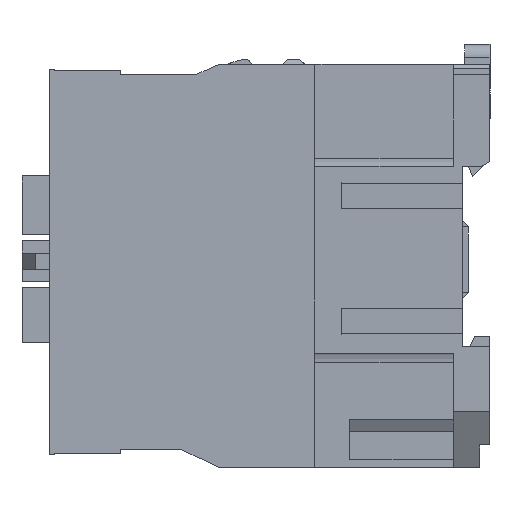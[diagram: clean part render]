
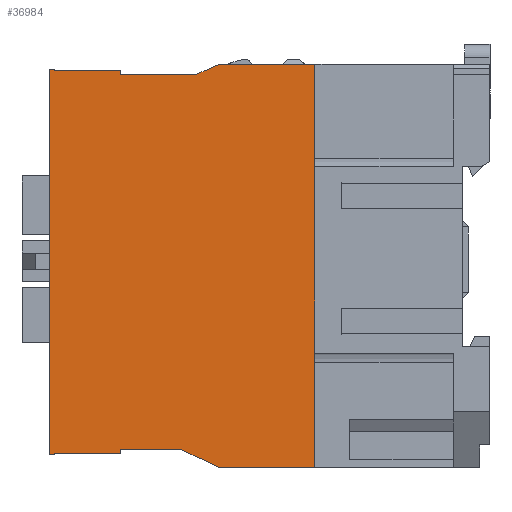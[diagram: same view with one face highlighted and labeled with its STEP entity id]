
A CAD part, left-side view. The second image highlights one B-rep face of the part: STEP entity #36984.
In plain terms, the highlighted planar face has unit normal (-1, 0, 0).
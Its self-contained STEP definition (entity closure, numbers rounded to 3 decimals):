
#3865 = CARTESIAN_POINT ( 'NONE',  ( 0.25, 35., -20.4 ) ) ;
#3975 = CARTESIAN_POINT ( 'NONE',  ( 0.25, 35., -57.7 ) ) ;
#4596 = CARTESIAN_POINT ( 'NONE',  ( 0.25, 58.5, -2. ) ) ;
#4655 = CARTESIAN_POINT ( 'NONE',  ( 0.25, 54., 0. ) ) ;
#4656 = DIRECTION ( 'NONE',  ( 0., -0.914, 0.406 ) ) ;
#4657 = VECTOR ( 'NONE', #4656, 1000. ) ;
#4658 = CARTESIAN_POINT ( 'NONE',  ( 0.25, 58.5, -2. ) ) ;
#4659 = LINE ( 'NONE', #4658, #4657 ) ;
#4660 = LINE ( 'NONE', #4723, #4722 ) ;
#4691 = CARTESIAN_POINT ( 'NONE',  ( 0.25, 35., 0. ) ) ;
#4692 = DIRECTION ( 'NONE',  ( 0., -1., 0. ) ) ;
#4693 = VECTOR ( 'NONE', #4692, 1000. ) ;
#4694 = CARTESIAN_POINT ( 'NONE',  ( 0.25, 88., 0. ) ) ;
#4695 = LINE ( 'NONE', #4694, #4693 ) ;
#4696 = DIRECTION ( 'NONE',  ( 0., 0., -1. ) ) ;
#4697 = VECTOR ( 'NONE', #4696, 1000. ) ;
#4698 = CARTESIAN_POINT ( 'NONE',  ( 0.25, 35., -80.5 ) ) ;
#4699 = LINE ( 'NONE', #4698, #4697 ) ;
#4706 = DIRECTION ( 'NONE',  ( 0., 0., -1. ) ) ;
#4707 = VECTOR ( 'NONE', #4706, 1000. ) ;
#4708 = CARTESIAN_POINT ( 'NONE',  ( 0.25, 35., -80.5 ) ) ;
#4709 = LINE ( 'NONE', #4708, #4707 ) ;
#4720 = CARTESIAN_POINT ( 'NONE',  ( 0.25, 35., -80.5 ) ) ;
#4721 = DIRECTION ( 'NONE',  ( 0., 0., -1. ) ) ;
#4722 = VECTOR ( 'NONE', #4721, 1000. ) ;
#4723 = CARTESIAN_POINT ( 'NONE',  ( 0.25, 35., -80.5 ) ) ;
#4768 = CARTESIAN_POINT ( 'NONE',  ( 0.25, 61.5, -77. ) ) ;
#4769 = DIRECTION ( 'NONE',  ( 0., 0.906, 0.423 ) ) ;
#4770 = VECTOR ( 'NONE', #4769, 1000. ) ;
#4771 = CARTESIAN_POINT ( 'NONE',  ( 0.25, 54., -80.5 ) ) ;
#4772 = LINE ( 'NONE', #4771, #4770 ) ;
#4812 = CARTESIAN_POINT ( 'NONE',  ( 0.25, 54., -80.5 ) ) ;
#4813 = DIRECTION ( 'NONE',  ( 0., 1., 0. ) ) ;
#4814 = VECTOR ( 'NONE', #4813, 1000. ) ;
#4815 = CARTESIAN_POINT ( 'NONE',  ( 0.25, 88., -80.5 ) ) ;
#4816 = LINE ( 'NONE', #4815, #4814 ) ;
#4928 = CARTESIAN_POINT ( 'NONE',  ( 0.25, 73.8, -77. ) ) ;
#4929 = DIRECTION ( 'NONE',  ( 0., 1., 0. ) ) ;
#4930 = VECTOR ( 'NONE', #4929, 1000. ) ;
#4931 = CARTESIAN_POINT ( 'NONE',  ( 0.25, 88., -77. ) ) ;
#4932 = LINE ( 'NONE', #4931, #4930 ) ;
#5195 = CARTESIAN_POINT ( 'NONE',  ( 0.25, 87., -77.8 ) ) ;
#5196 = DIRECTION ( 'NONE',  ( 0., 1., 0. ) ) ;
#5197 = VECTOR ( 'NONE', #5196, 1000. ) ;
#5198 = CARTESIAN_POINT ( 'NONE',  ( 0.25, 88., -77.8 ) ) ;
#5199 = LINE ( 'NONE', #5198, #5197 ) ;
#5200 = CARTESIAN_POINT ( 'NONE',  ( 0.25, 73.8, -77.8 ) ) ;
#5572 = VECTOR ( 'NONE', #5836, 1000. ) ;
#5573 = CARTESIAN_POINT ( 'NONE',  ( 0.25, 87., -1.858 ) ) ;
#5574 = LINE ( 'NONE', #5573, #5572 ) ;
#5836 = DIRECTION ( 'NONE',  ( 0., 0., 1. ) ) ;
#6015 = DIRECTION ( 'NONE',  ( 0., -1., 0. ) ) ;
#6016 = VECTOR ( 'NONE', #6015, 1000. ) ;
#6017 = CARTESIAN_POINT ( 'NONE',  ( 0.25, 88., -2. ) ) ;
#6018 = LINE ( 'NONE', #6017, #6016 ) ;
#6019 = CARTESIAN_POINT ( 'NONE',  ( 0.25, 73.8, -2. ) ) ;
#6310 = CARTESIAN_POINT ( 'NONE',  ( 0.25, 73.8, -1.2 ) ) ;
#6311 = CARTESIAN_POINT ( 'NONE',  ( 0.25, 87., -1.2 ) ) ;
#6312 = DIRECTION ( 'NONE',  ( 0., -1., 0. ) ) ;
#6313 = VECTOR ( 'NONE', #6312, 1000. ) ;
#6314 = CARTESIAN_POINT ( 'NONE',  ( 0.25, 88., -1.2 ) ) ;
#6315 = LINE ( 'NONE', #6314, #6313 ) ;
#6510 = DIRECTION ( 'NONE',  ( 0., 1., 0. ) ) ;
#6511 = DIRECTION ( 'NONE',  ( 1., 0., 0. ) ) ;
#6512 = CARTESIAN_POINT ( 'NONE',  ( 0.25, 88., -80.5 ) ) ;
#6513 = AXIS2_PLACEMENT_3D ( 'NONE', #6512, #6511, #6510 ) ;
#6514 = PLANE ( 'NONE',  #6513 ) ;
#6515 = FACE_OUTER_BOUND ( 'NONE', #36985, .T. ) ;
#6516 = DIRECTION ( 'NONE',  ( 0., -1., 0. ) ) ;
#6517 = VECTOR ( 'NONE', #6516, 1000. ) ;
#6518 = CARTESIAN_POINT ( 'NONE',  ( 0.25, 88., -1. ) ) ;
#6519 = LINE ( 'NONE', #6518, #6517 ) ;
#6520 = CARTESIAN_POINT ( 'NONE',  ( 0.25, 88., -1. ) ) ;
#6525 = CARTESIAN_POINT ( 'NONE',  ( 0.25, 87., -1. ) ) ;
#6607 = DIRECTION ( 'NONE',  ( 0., 0., 1. ) ) ;
#6608 = VECTOR ( 'NONE', #6607, 1000. ) ;
#6609 = CARTESIAN_POINT ( 'NONE',  ( 0.25, 73.8, -77. ) ) ;
#6610 = LINE ( 'NONE', #6609, #6608 ) ;
#6627 = DIRECTION ( 'NONE',  ( 0., 0., 1. ) ) ;
#6628 = VECTOR ( 'NONE', #6627, 1000. ) ;
#6629 = CARTESIAN_POINT ( 'NONE',  ( 0.25, 73.8, -2. ) ) ;
#6630 = LINE ( 'NONE', #6629, #6628 ) ;
#6654 = DIRECTION ( 'NONE',  ( 0., 0., 1. ) ) ;
#6655 = VECTOR ( 'NONE', #6654, 1000. ) ;
#6656 = CARTESIAN_POINT ( 'NONE',  ( 0.25, 87., -77.358 ) ) ;
#6657 = LINE ( 'NONE', #6656, #6655 ) ;
#6658 = CARTESIAN_POINT ( 'NONE',  ( 0.25, 87., -78. ) ) ;
#6659 = DIRECTION ( 'NONE',  ( 0., -1., 0. ) ) ;
#6660 = VECTOR ( 'NONE', #6659, 1000. ) ;
#6661 = CARTESIAN_POINT ( 'NONE',  ( 0.25, 73.8, -78. ) ) ;
#6662 = LINE ( 'NONE', #6661, #6660 ) ;
#6663 = CARTESIAN_POINT ( 'NONE',  ( 0.25, 88., -78. ) ) ;
#6664 = DIRECTION ( 'NONE',  ( 0., 0., -1. ) ) ;
#6665 = VECTOR ( 'NONE', #6664, 1000. ) ;
#6666 = CARTESIAN_POINT ( 'NONE',  ( 0.25, 88., -1. ) ) ;
#6667 = LINE ( 'NONE', #6666, #6665 ) ;
#17817 = VERTEX_POINT ( 'NONE', #3865 ) ;
#17862 = VERTEX_POINT ( 'NONE', #3975 ) ;
#32265 = VERTEX_POINT ( 'NONE', #4596 ) ;
#32267 = EDGE_CURVE ( 'NONE', #32265, #32268, #4659, .T. ) ;
#32268 = VERTEX_POINT ( 'NONE', #4655 ) ;
#32310 = EDGE_CURVE ( 'NONE', #17862, #32311, #4660, .T. ) ;
#32311 = VERTEX_POINT ( 'NONE', #4720 ) ;
#32323 = EDGE_CURVE ( 'NONE', #32335, #17817, #4709, .T. ) ;
#32329 = EDGE_CURVE ( 'NONE', #17817, #17862, #4699, .T. ) ;
#32334 = EDGE_CURVE ( 'NONE', #32268, #32335, #4695, .T. ) ;
#32335 = VERTEX_POINT ( 'NONE', #4691 ) ;
#32369 = EDGE_CURVE ( 'NONE', #32381, #32370, #4772, .T. ) ;
#32370 = VERTEX_POINT ( 'NONE', #4768 ) ;
#32380 = EDGE_CURVE ( 'NONE', #32311, #32381, #4816, .T. ) ;
#32381 = VERTEX_POINT ( 'NONE', #4812 ) ;
#32469 = EDGE_CURVE ( 'NONE', #32370, #32470, #4932, .T. ) ;
#32470 = VERTEX_POINT ( 'NONE', #4928 ) ;
#35974 = VERTEX_POINT ( 'NONE', #5200 ) ;
#35976 = EDGE_CURVE ( 'NONE', #35974, #35977, #5199, .T. ) ;
#35977 = VERTEX_POINT ( 'NONE', #5195 ) ;
#36671 = VERTEX_POINT ( 'NONE', #6019 ) ;
#36673 = EDGE_CURVE ( 'NONE', #36671, #32265, #6018, .T. ) ;
#36845 = EDGE_CURVE ( 'NONE', #36846, #36847, #6315, .T. ) ;
#36846 = VERTEX_POINT ( 'NONE', #6311 ) ;
#36847 = VERTEX_POINT ( 'NONE', #6310 ) ;
#36977 = VERTEX_POINT ( 'NONE', #6525 ) ;
#36981 = VERTEX_POINT ( 'NONE', #6520 ) ;
#36983 = EDGE_CURVE ( 'NONE', #36981, #36977, #6519, .T. ) ;
#36984 = ADVANCED_FACE ( 'NONE', ( #6515 ), #6514, .F. ) ;
#36985 = EDGE_LOOP ( 'NONE', ( #37044, #37045, #37047, #37048, #37051, #37054, #37033, #37034, #37036, #37037, #37038, #37039, #37040, #37041, #37042, #37043, #37020, #37021 ) ) ;
#37020 = ORIENTED_EDGE ( 'NONE', *, *, #36673, .F. ) ;
#37021 = ORIENTED_EDGE ( 'NONE', *, *, #37022, .T. ) ;
#37022 = EDGE_CURVE ( 'NONE', #36671, #36847, #6630, .T. ) ;
#37033 = ORIENTED_EDGE ( 'NONE', *, *, #35976, .F. ) ;
#37034 = ORIENTED_EDGE ( 'NONE', *, *, #37035, .T. ) ;
#37035 = EDGE_CURVE ( 'NONE', #35974, #32470, #6610, .T. ) ;
#37036 = ORIENTED_EDGE ( 'NONE', *, *, #32469, .F. ) ;
#37037 = ORIENTED_EDGE ( 'NONE', *, *, #32369, .F. ) ;
#37038 = ORIENTED_EDGE ( 'NONE', *, *, #32380, .F. ) ;
#37039 = ORIENTED_EDGE ( 'NONE', *, *, #32310, .F. ) ;
#37040 = ORIENTED_EDGE ( 'NONE', *, *, #32329, .F. ) ;
#37041 = ORIENTED_EDGE ( 'NONE', *, *, #32323, .F. ) ;
#37042 = ORIENTED_EDGE ( 'NONE', *, *, #32334, .F. ) ;
#37043 = ORIENTED_EDGE ( 'NONE', *, *, #32267, .F. ) ;
#37044 = ORIENTED_EDGE ( 'NONE', *, *, #36845, .F. ) ;
#37045 = ORIENTED_EDGE ( 'NONE', *, *, #37046, .T. ) ;
#37046 = EDGE_CURVE ( 'NONE', #36846, #36977, #5574, .T. ) ;
#37047 = ORIENTED_EDGE ( 'NONE', *, *, #36983, .F. ) ;
#37048 = ORIENTED_EDGE ( 'NONE', *, *, #37049, .T. ) ;
#37049 = EDGE_CURVE ( 'NONE', #36981, #37050, #6667, .T. ) ;
#37050 = VERTEX_POINT ( 'NONE', #6663 ) ;
#37051 = ORIENTED_EDGE ( 'NONE', *, *, #37052, .T. ) ;
#37052 = EDGE_CURVE ( 'NONE', #37050, #37053, #6662, .T. ) ;
#37053 = VERTEX_POINT ( 'NONE', #6658 ) ;
#37054 = ORIENTED_EDGE ( 'NONE', *, *, #37055, .T. ) ;
#37055 = EDGE_CURVE ( 'NONE', #37053, #35977, #6657, .T. ) ;
